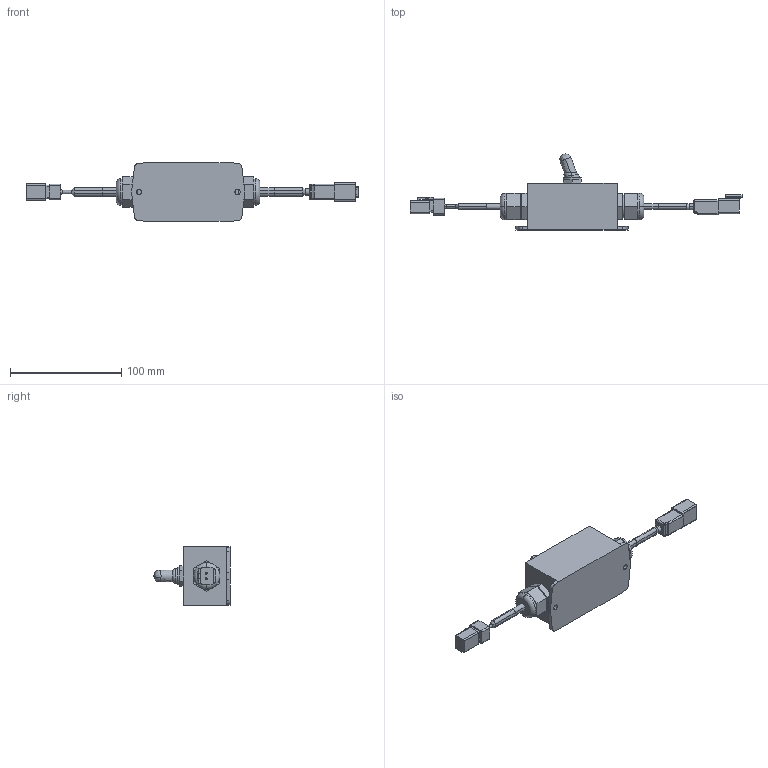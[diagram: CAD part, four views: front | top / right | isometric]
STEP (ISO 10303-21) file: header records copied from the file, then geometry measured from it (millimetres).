
FILE_DESCRIPTION (( 'STEP AP203' ), '1' );
FILE_NAME ('LED-ILS.STEP', '2017-04-14T15:12:58', ( '' ), ( '' ), 'SwSTEP 2.0', 'SolidWorks 2016', '' );
FILE_SCHEMA (( 'CONFIG_CONTROL_DESIGN' ));
Length unit declared in the file: inch
Products named in the file (1): LED-ILS
Bounding box: 298.81 x 68.47 x 52.32 mm (x, y, z)
Volume: 219783.7 mm3; surface area: 35073.3 mm2
Topology: 3 solids, 3 shells, 273 faces, 701 edges, 442 vertices
Faces by surface type: plane 155, cylinder 88, bspline 12, torus 12, sphere 6
Entity records: 9533 total; most frequent: CARTESIAN_POINT 2796, DIRECTION 1391, ORIENTED_EDGE 1390, EDGE_CURVE 695, AXIS2_PLACEMENT_3D 478, VERTEX_POINT 442, LINE 435, VECTOR 435
